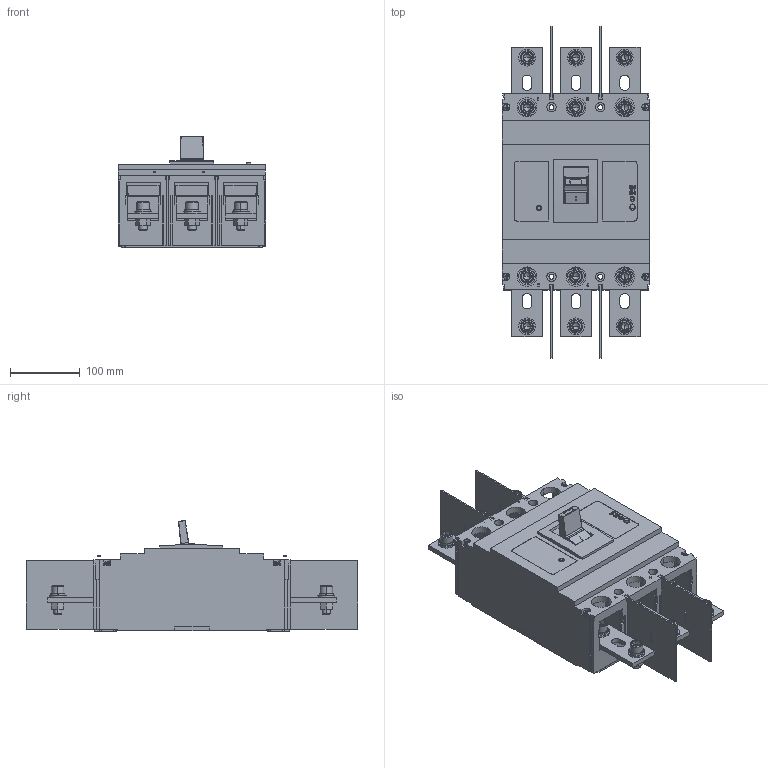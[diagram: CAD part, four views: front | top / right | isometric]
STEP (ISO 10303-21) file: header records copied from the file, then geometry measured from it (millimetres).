
FILE_DESCRIPTION((''),'2;1');
FILE_NAME('ASM0002_SW0003','2021-10-12T',('shuanglong.wu'),(''),'PRO/ENGINEER BY PARAMETRIC TECHNOLOGY CORPORATION, 2015440','PRO/ENGINEER BY PARAMETRIC TECHNOLOGY CORPORATION, 2015440','');
FILE_SCHEMA(('CONFIG_CONTROL_DESIGN'));
Products named in the file (1): ASM0002_SW0003
Bounding box: 211.3 x 475.76 x 159.18 mm (x, y, z)
Volume: 6138813.5 mm3; surface area: 689152.4 mm2
Topology: 5 solids, 8 shells, 3384 faces, 9261 edges, 5928 vertices
Faces by surface type: plane 2248, cylinder 719, cone 328, sphere 50, bspline 16, torus 13, extrusion 10
Entity records: 108899 total; most frequent: CARTESIAN_POINT 22104, ORIENTED_EDGE 18374, DIRECTION 17917, EDGE_CURVE 9187, VECTOR 6031, LINE 6021, AXIS2_PLACEMENT_3D 5943, VERTEX_POINT 5928
